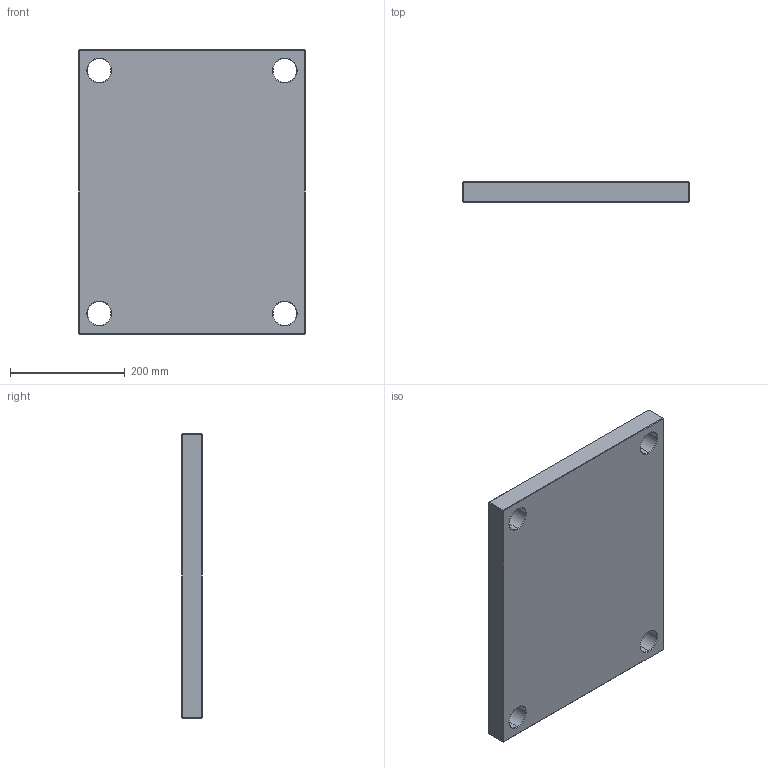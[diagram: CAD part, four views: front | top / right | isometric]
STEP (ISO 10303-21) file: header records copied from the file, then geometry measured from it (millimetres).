
FILE_DESCRIPTION (( 'STEP AP214' ), '1' );
FILE_NAME ('PCX-396x496x36.STEP', '2020-05-04T09:32:51', ( 'August' ), ( '' ), 'SwSTEP 2.0', 'SolidWorks 2018', '' );
FILE_SCHEMA (( 'AUTOMOTIVE_DESIGN' ));
Length unit declared in the file: millimetre
Products named in the file (1): PCX-396x496x36
Bounding box: 396 x 36 x 496 mm (x, y, z)
Volume: 6843594.2 mm3; surface area: 467642.5 mm2
Topology: 1 solids, 1 shells, 82 faces, 168 edges, 96 vertices
Faces by surface type: plane 34, cone 24, cylinder 24
Entity records: 2170 total; most frequent: DIRECTION 406, CARTESIAN_POINT 347, ORIENTED_EDGE 336, EDGE_CURVE 168, AXIS2_PLACEMENT_3D 155, EDGE_LOOP 98, VERTEX_POINT 96, VECTOR 96
